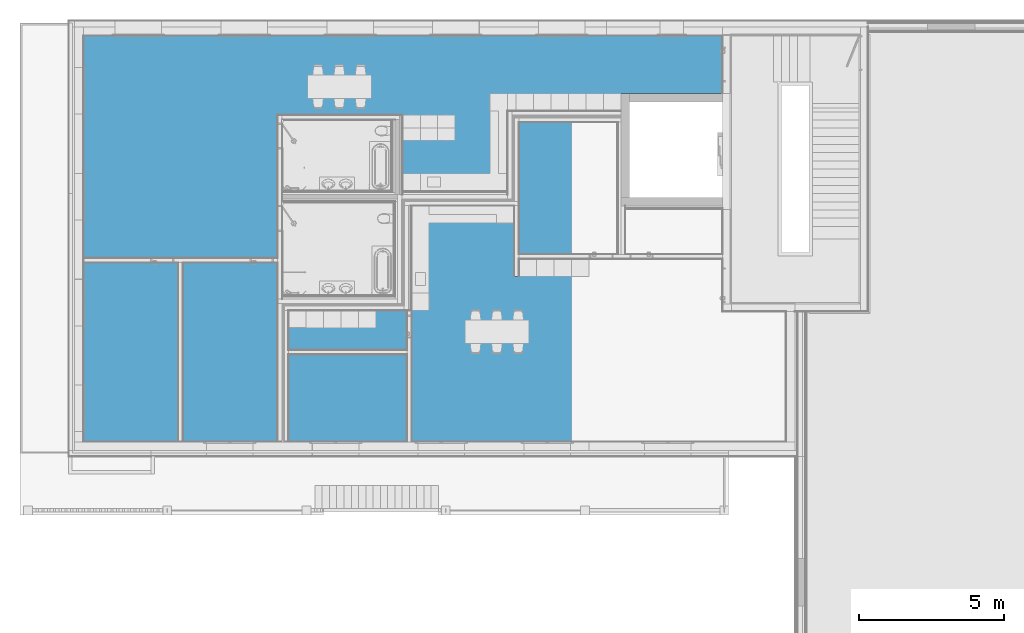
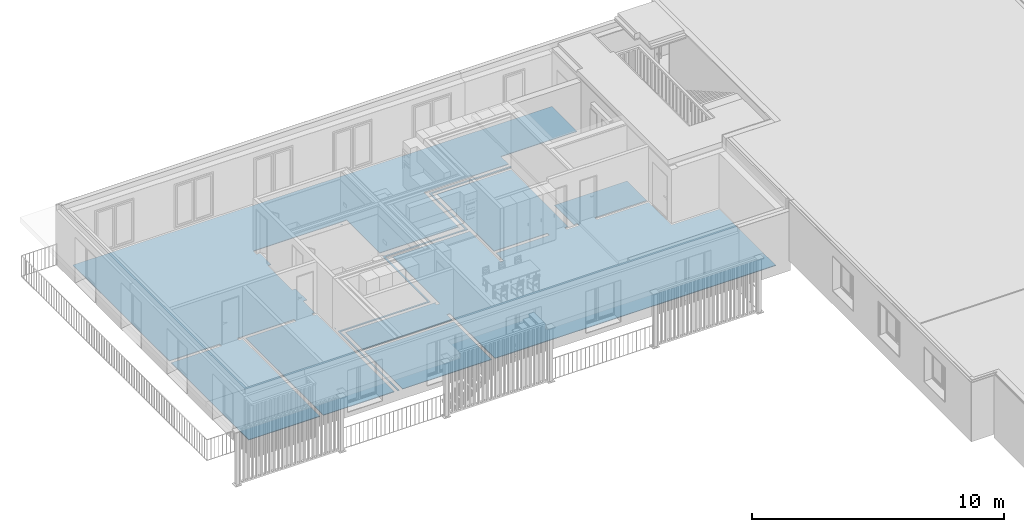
# One storey, part 11 of 34: 1 building element part, 1 element without a shape of its own.
"""IFC4 building model written with IfcOpenShell, lengths in millimetres."""

from ifc_helpers import new_model, entity, si_unit, converted_unit, derived_unit, direction, frame, origin_with_axes, place, context, subcontext, project, spatial, polygons, material, type_object, element, aggregate, save


model = new_model("IFC4")

# Units and contexts
model_context = context("Model", 3, precision=0.01, world=origin_with_axes(), true_north=direction((0.0, 1.0)))
body_context = subcontext(model_context, "Body", "Model", "MODEL_VIEW")
ifc_project = project(units=[si_unit("LENGTHUNIT", "METRE", prefix="MILLI"), si_unit("AREAUNIT", "SQUARE_METRE"), si_unit("VOLUMEUNIT", "CUBIC_METRE"), converted_unit("PLANEANGLEUNIT", "DEGREE", entity("IfcPlaneAngleMeasure", 0.0174532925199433), si_unit("PLANEANGLEUNIT", "RADIAN"), dimensions=[0, 0, 0, 0, 0, 0, 0]), converted_unit("TIMEUNIT", "Year", entity("IfcTimeMeasure", 31557600.0), si_unit("TIMEUNIT", "SECOND"), dimensions=[0, 0, 1, 0, 0, 0, 0]), si_unit("MASSUNIT", "GRAM", prefix="KILO"), si_unit("THERMODYNAMICTEMPERATUREUNIT", "DEGREE_CELSIUS"), si_unit("LUMINOUSINTENSITYUNIT", "LUMEN"), si_unit("ENERGYUNIT", "JOULE", prefix="MEGA"), derived_unit("THERMALCONDUCTANCEUNIT", [(si_unit("POWERUNIT", "WATT"), 1), (si_unit("LENGTHUNIT", "METRE"), -1), (si_unit("THERMODYNAMICTEMPERATUREUNIT", "KELVIN"), -1)]), derived_unit("SPECIFICHEATCAPACITYUNIT", [(si_unit("ENERGYUNIT", "JOULE"), 1), (si_unit("MASSUNIT", "GRAM", prefix="KILO"), -1), (si_unit("THERMODYNAMICTEMPERATUREUNIT", "KELVIN"), -1)]), derived_unit("MASSDENSITYUNIT", [(si_unit("MASSUNIT", "GRAM", prefix="KILO"), 1), (si_unit("VOLUMEUNIT", "CUBIC_METRE"), -1)])], contexts=[model_context])

# Site, building, storey
site_placement = place(None, origin_with_axes())
site = spatial("IfcSite", under=ifc_project, at=site_placement, Name="Gelände", CompositionType="ELEMENT")
building_placement = place(site_placement, origin_with_axes())
building = spatial("IfcBuilding", under=site, at=building_placement, Name="Gebäude", CompositionType="ELEMENT")
storey_placement = place(building_placement, frame((0.0, 0.0, 2900.0), z_axis=(0.0, 0.0, 1.0), x_axis=(1.0, 0.0, 0.0)))
storey = spatial("IfcBuildingStorey", under=building, at=storey_placement, Name="1.OG", CompositionType="ELEMENT", Elevation=2900.0)

# Covering, building element part
covering_type = type_object("IfcCoveringType", Name="Bodenaufbau Typ 01 150", PredefinedType="NOTDEFINED")
covering_placement = place(storey_placement, frame((-6561.004181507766, 37437.5972813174, 0.0), z_axis=(0.0, 0.0, 1.0), x_axis=(1.0, 0.0, 0.0)))
covering = element("IfcCovering", 1, at=covering_placement, inside=storey, type_object=covering_type, Name="Decke-007", PredefinedType="NOTDEFINED")
ifc_material = material(Name="Trittschalldämmung")
building_element_part_placement = place(covering_placement, origin_with_axes())
building_element_part = element("IfcBuildingElementPart", 2, at=building_element_part_placement, material=ifc_material, Name="Trittschalldämmung", PredefinedType="NOTDEFINED", context=body_context, shape_type="Tessellation", body=[
    polygons([(10621.77773059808, -5369.999999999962, 80.00000000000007), (10621.77773059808, -5359.999999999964, 80.00000000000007), (10611.77773059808, -5359.999999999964, 80.00000000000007), (10611.77773059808, -5369.999999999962, 80.00000000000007), (10621.77773059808, -5359.999999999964, 50.00000000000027), (10621.77773059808, -5369.999999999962, 50.00000000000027), (10611.77773059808, -5359.999999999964, 50.00000000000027), (10611.77773059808, -5369.999999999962, 50.00000000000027)], [[[1, 2, 3, 4]], [[5, 2, 1, 6]], [[2, 5, 7, 3]], [[3, 7, 8, 4]], [[6, 1, 4, 8]], [[5, 6, 8, 7]]], closed=True),
    polygons([(3419.999999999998, -7812.513021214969, 80.00000000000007), (3419.999999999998, -13980.00054054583, 80.00000000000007), (6683.999999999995, -13980.00054054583, 80.00000000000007), (6683.999999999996, -9223.223895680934, 80.00000000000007), (6683.999999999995, -9073.223895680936, 80.00000000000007), (6683.999999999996, -7812.513021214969, 80.00000000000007), (6533.999999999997, -7812.513021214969, 80.00000000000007), (6533.999999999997, -7662.513021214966, 80.00000000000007), (6683.999999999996, -7662.513021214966, 80.00000000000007), (6683.999999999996, -6734.99999999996, 80.00000000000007), (6843.999999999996, -6734.99999999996, 80.00000000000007), (6843.999999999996, -5844.99999999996, 80.00000000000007), (6683.999999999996, -5844.99999999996, 80.00000000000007), (6683.999999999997, -3898.533577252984, 80.00000000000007), (6843.999999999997, -3898.533577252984, 80.00000000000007), (6843.999999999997, -3008.533577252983, 80.00000000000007), (6683.999999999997, -3008.533577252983, 80.00000000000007), (6683.999999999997, -2743.533577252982, 80.00000000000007), (6833.999999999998, -2743.533577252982, 80.00000000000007), (10876.77773059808, -2743.533577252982, 80.00000000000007), (10876.77773059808, -2733.533577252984, 80.00000000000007), (10981.77773059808, -2733.533577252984, 80.00000000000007), (10981.77773059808, -5369.999999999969, 80.00000000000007), (14590.00162627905, -5369.999999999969, 80.00000000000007), (14590.00162627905, -5474.999999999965, 80.00000000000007), (14600.00162627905, -5474.999999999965, 80.00000000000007), (14600.00162627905, -2599.999999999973, 80.00000000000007), (14750.00162627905, -2599.999999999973, 80.00000000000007), (18490.00162627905, -2599.999999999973, 80.00000000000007), (18490.00162627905, -1989.999999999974, 80.00000000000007), (21980.00162627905, -1989.999999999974, 80.00000000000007), (21980.00162627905, 0.0, 80.00000000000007), (0.0, 0.0, 80.00000000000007), (0.0, -7662.51302121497, 80.00000000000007), (2309.999999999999, -7662.51302121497, 80.00000000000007), (2309.999999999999, -7812.513021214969, 80.00000000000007), (0.0, -7812.513021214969, 80.00000000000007), (0.0, -13980.00054054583, 80.00000000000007), (3269.999999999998, -13980.00054054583, 80.00000000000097), (3269.999999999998, -7812.513021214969, 80.00000000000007), (3110.0, -7812.513021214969, 80.00000000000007), (3110.0, -7662.51302121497, 80.00000000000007), (5733.999999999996, -7662.513021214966, 80.00000000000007), (5733.999999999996, -7812.513021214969, 80.00000000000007), (3419.999999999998, -7812.513021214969, 50.00000000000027), (3419.999999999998, -13980.00054054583, 50.00000000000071), (6683.999999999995, -13980.00054054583, 50.00000000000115), (6683.999999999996, -9223.223895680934, 50.00000000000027), (6683.999999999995, -9073.223895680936, 50.00000000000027), (6683.999999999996, -7812.513021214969, 50.00000000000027), (6533.999999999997, -7812.513021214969, 50.00000000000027), (6533.999999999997, -7662.513021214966, 50.00000000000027), (6683.999999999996, -7662.513021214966, 50.00000000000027), (6683.999999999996, -6734.99999999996, 50.00000000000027), (6843.999999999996, -6734.99999999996, 50.00000000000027), (6843.999999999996, -5844.99999999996, 50.00000000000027), (6683.999999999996, -5844.99999999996, 50.00000000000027), (6683.999999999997, -3898.533577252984, 50.00000000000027), (6843.999999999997, -3898.533577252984, 50.00000000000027), (6843.999999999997, -3008.533577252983, 50.00000000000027), (6683.999999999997, -3008.533577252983, 50.00000000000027), (6683.999999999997, -2743.533577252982, 50.00000000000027), (6833.999999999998, -2743.533577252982, 50.00000000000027), (10876.77773059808, -2743.533577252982, 50.00000000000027), (10876.77773059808, -2733.533577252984, 50.00000000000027), (10981.77773059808, -2733.533577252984, 50.00000000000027), (10981.77773059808, -5369.999999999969, 50.00000000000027), (14590.00162627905, -5369.999999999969, 50.00000000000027), (14590.00162627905, -5474.999999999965, 50.00000000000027), (14600.00162627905, -5474.999999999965, 50.00000000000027), (14600.00162627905, -2599.999999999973, 50.00000000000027), (14750.00162627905, -2599.999999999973, 50.00000000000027), (18490.00162627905, -2599.999999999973, 50.00000000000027), (18490.00162627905, -1989.999999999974, 50.00000000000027), (21980.00162627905, -1989.999999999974, 50.00000000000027), (21980.00162627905, 0.0, 50.00000000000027), (0.0, 0.0, 50.00000000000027), (0.0, -7662.51302121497, 50.00000000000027), (2309.999999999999, -7662.51302121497, 50.00000000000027), (2309.999999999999, -7812.513021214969, 50.00000000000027), (0.0, -7812.513021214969, 50.00000000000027), (0.0, -13980.00054054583, 50.00000000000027), (3269.999999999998, -13980.00054054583, 50.00000000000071), (3269.999999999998, -7812.513021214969, 50.00000000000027), (3110.0, -7812.513021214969, 50.00000000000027), (3110.0, -7662.51302121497, 50.00000000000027), (5733.999999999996, -7662.513021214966, 50.00000000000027), (5733.999999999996, -7812.513021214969, 50.00000000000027)], [[[1, 2, 3, 4, 5, 6, 7, 8, 9, 10, 11, 12, 13, 14, 15, 16, 17, 18, 19, 20, 21, 22, 23, 24, 25, 26, 27, 28, 29, 30, 31, 32, 33, 34, 35, 36, 37, 38, 39, 40, 41, 42, 43, 44]], [[2, 1, 45, 46]], [[2, 46, 47, 3]], [[48, 4, 3, 47]], [[4, 48, 49, 5]], [[5, 49, 50, 6]], [[6, 50, 51, 7]], [[8, 7, 51, 52]], [[53, 9, 8, 52]], [[10, 9, 53, 54]], [[11, 10, 54, 55]], [[11, 55, 56, 12]], [[57, 13, 12, 56]], [[14, 13, 57, 58]], [[15, 14, 58, 59]], [[15, 59, 60, 16]], [[61, 17, 16, 60]], [[18, 17, 61, 62]], [[63, 19, 18, 62]], [[64, 20, 19, 63]], [[21, 20, 64, 65]], [[66, 22, 21, 65]], [[23, 22, 66, 67]], [[23, 67, 68, 24]], [[24, 68, 69, 25]], [[25, 69, 70, 26]], [[26, 70, 71, 27]], [[72, 28, 27, 71]], [[28, 72, 73, 29]], [[29, 73, 74, 30]], [[74, 75, 31, 30]], [[75, 76, 32, 31]], [[76, 77, 33, 32]], [[78, 34, 33, 77]], [[35, 34, 78, 79]], [[36, 35, 79, 80]], [[37, 36, 80, 81]], [[37, 81, 82, 38]], [[83, 39, 38, 82]], [[84, 40, 39, 83]], [[40, 84, 85, 41]], [[42, 41, 85, 86]], [[43, 42, 86, 87]], [[44, 43, 87, 88]], [[45, 1, 44, 88]], [[46, 45, 88, 87, 86, 85, 84, 83, 82, 81, 80, 79, 78, 77, 76, 75, 74, 73, 72, 71, 70, 69, 68, 67, 66, 65, 64, 63, 62, 61, 60, 59, 58, 57, 56, 55, 54, 53, 52, 51, 50, 49, 48, 47]]], closed=True),
    polygons([(10726.77773059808, -2903.533577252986, 80.00000000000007), (10726.77773059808, -2893.533577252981, 80.00000000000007), (10611.77773059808, -2893.533577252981, 80.00000000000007), (10611.77773059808, -2903.533577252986, 80.00000000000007), (10726.77773059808, -2903.533577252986, 50.00000000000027), (10726.77773059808, -2893.533577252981, 50.00000000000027), (10611.77773059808, -2893.533577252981, 50.00000000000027), (10611.77773059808, -2903.533577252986, 50.00000000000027)], [[[1, 2, 3, 4]], [[1, 5, 6, 2]], [[2, 6, 7, 3]], [[8, 4, 3, 7]], [[5, 1, 4, 8]], [[5, 8, 7, 6]]], closed=True),
    polygons([(6843.999999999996, -9073.223895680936, 80.00000000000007), (6843.999999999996, -8958.223895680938, 80.00000000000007), (6833.999999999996, -8958.223895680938, 80.00000000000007), (6833.999999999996, -9073.223895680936, 80.00000000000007), (6843.999999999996, -9073.223895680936, 50.00000000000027), (6843.999999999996, -8958.223895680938, 50.00000000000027), (6833.999999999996, -8958.223895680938, 50.00000000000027), (6833.999999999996, -9073.223895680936, 50.00000000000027)], [[[1, 2, 3, 4]], [[2, 1, 5, 6]], [[2, 6, 7, 3]], [[8, 4, 3, 7]], [[5, 1, 4, 8]], [[5, 8, 7, 6]]], closed=True),
    polygons([(6903.999981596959, -13980.00054054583, 80.00000000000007), (6903.999981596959, -9453.223895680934, 80.00000000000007), (6903.999981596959, -9303.223895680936, 80.00000000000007), (11037.0, -9303.223895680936, 80.00000000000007), (11037.0, -5854.999999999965, 80.00000000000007), (11037.0, -5704.999999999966, 80.00000000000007), (14830.00162627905, -5704.999999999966, 80.00000000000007), (14830.00162627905, -2829.999999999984, 80.00000000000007), (14980.00162627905, -2829.999999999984, 80.00000000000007), (18490.00162627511, -2829.999999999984, 80.00000000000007), (18490.00162627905, -2749.999999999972, 80.00000000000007), (14750.00162627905, -2749.999999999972, 80.00000000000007), (14750.00162627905, -5624.999999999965, 80.00000000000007), (14600.00162627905, -5624.999999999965, 80.00000000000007), (10957.0, -5624.999999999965, 80.00000000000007), (10957.0, -9223.223895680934, 80.00000000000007), (10807.0, -9223.223895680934, 80.00000000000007), (6833.999999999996, -9223.223895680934, 80.00000000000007), (6833.999999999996, -13980.00054054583, 80.00000000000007), (6903.999981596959, -9453.223895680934, 50.00000000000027), (6903.999981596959, -13980.00054054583, 50.00000000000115), (6903.999981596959, -9303.223895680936, 50.00000000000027), (11037.0, -9303.223895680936, 50.00000000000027), (11037.0, -5854.999999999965, 50.00000000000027), (11037.0, -5704.999999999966, 50.00000000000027), (14830.00162627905, -5704.999999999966, 50.00000000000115), (14830.00162627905, -2829.999999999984, 50.00000000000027), (14980.00162627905, -2829.999999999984, 50.00000000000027), (18490.00162627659, -2829.999999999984, 50.00000000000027), (18490.00162627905, -2749.999999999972, 50.00000000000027), (14750.00162627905, -2749.999999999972, 50.00000000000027), (14750.00162627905, -5624.999999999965, 50.00000000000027), (14600.00162627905, -5624.999999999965, 50.00000000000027), (10957.0, -5624.999999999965, 50.00000000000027), (10957.0, -9223.223895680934, 50.00000000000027), (10807.0, -9223.223895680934, 50.00000000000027), (6833.999999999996, -9223.223895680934, 50.00000000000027), (6833.999999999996, -13980.00054054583, 50.00000000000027)], [[[1, 2, 3, 4, 5, 6, 7, 8, 9, 10, 11, 12, 13, 14, 15, 16, 17, 18, 19]], [[20, 2, 1, 21]], [[2, 20, 22, 3]], [[23, 4, 3, 22]], [[4, 23, 24, 5]], [[5, 24, 25, 6]], [[26, 7, 6, 25]], [[8, 7, 26, 27]], [[28, 9, 8, 27]], [[29, 10, 9, 28]], [[10, 29, 30, 11]], [[31, 12, 11, 30]], [[13, 12, 31, 32]], [[33, 14, 13, 32]], [[15, 14, 33, 34]], [[15, 34, 35, 16]], [[36, 17, 16, 35]], [[37, 18, 17, 36]], [[19, 18, 37, 38]], [[21, 1, 19, 38]], [[20, 21, 38, 37, 36, 35, 34, 33, 32, 31, 30, 29, 28, 27, 26, 25, 24, 23, 22]]], closed=True),
    polygons([(11142.0, -10970.00054054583, 50.00000000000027), (11142.0, -10970.00054054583, 80.00000000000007), (11142.0, -13980.00054054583, 80.00000000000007), (11142.0, -13980.00054054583, 50.00000000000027), (7053.999981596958, -10970.00054054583, 80.00000000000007), (7053.999981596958, -10970.00054054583, 50.00000000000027), (7053.999981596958, -13980.00054054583, 80.00000000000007), (7053.999981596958, -13980.00054054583, 50.00000000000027)], [[[1, 2, 3, 4]], [[5, 2, 1, 6]], [[2, 5, 7, 3]], [[4, 3, 7, 8]], [[6, 1, 4, 8]], [[5, 6, 8, 7]]], closed=True),
    polygons([(7053.999981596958, -10820.00054054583, 80.00000000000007), (11142.0, -10820.00054054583, 80.00000000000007), (11142.0, -10413.22389568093, 80.00000000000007), (11292.0, -10413.22389568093, 80.00000000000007), (11292.0, -13980.00054054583, 80.00000000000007), (24181.00162627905, -13980.00054054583, 80.00000000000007), (24181.00162627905, -9489.999999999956, 80.00000000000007), (21990.00162627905, -9489.999999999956, 80.00000000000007), (21990.00162627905, -7680.00000076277, 80.00000000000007), (19600.00162627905, -7680.000000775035, 80.00000000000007), (19600.00162627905, -7529.99999922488, 80.00000000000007), (21990.00162627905, -7529.999998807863, 80.00000000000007), (21990.00162627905, -5969.99999999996, 80.00000000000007), (18640.00162627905, -5969.99999999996, 80.00000000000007), (18640.00162627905, -7529.999999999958, 80.00000000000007), (18800.00162627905, -7529.999999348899, 80.00000000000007), (18800.00162627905, -7680.000000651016, 80.00000000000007), (18225.00162627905, -7680.000000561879, 80.00000000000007), (18225.00162627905, -7529.999999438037, 80.00000000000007), (18385.0016262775, -7529.999999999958, 80.00000000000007), (18385.00162625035, -2979.999999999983, 80.00000000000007), (14980.00162627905, -2979.999999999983, 80.00000000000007), (14980.00162627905, -5704.999999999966, 80.00000000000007), (14980.00162627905, -5854.999999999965, 80.00000000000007), (14980.00162627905, -7529.99999994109, 80.00000000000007), (17425.00162627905, -7529.999999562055, 80.00000000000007), (17425.00162627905, -7680.000000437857, 80.00000000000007), (14980.00162627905, -7680.000000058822, 80.00000000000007), (14980.00162627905, -8287.999999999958, 80.00000000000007), (14830.00162627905, -8287.999999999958, 80.00000000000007), (14830.00162627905, -5854.999999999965, 80.00000000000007), (11292.0, -5854.999999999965, 80.00000000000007), (11292.0, -9613.223895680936, 80.00000000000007), (11142.0, -9613.223895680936, 80.00000000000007), (11142.0, -9463.223895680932, 80.00000000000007), (11187.0, -9463.223895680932, 80.00000000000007), (11187.0, -9453.223895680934, 80.00000000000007), (11037.0, -9453.223895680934, 80.00000000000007), (7053.999981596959, -9453.223895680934, 80.00000000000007), (11142.0, -10820.00054054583, 50.00000000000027), (7053.999981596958, -10820.00054054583, 50.00000000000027), (11142.0, -10413.22389568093, 50.00000000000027), (11292.0, -10413.22389568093, 50.00000000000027), (11292.0, -13980.00054054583, 50.00000000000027), (24181.00162627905, -13980.00054054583, 50.00000000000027), (24181.00162627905, -9489.999999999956, 50.00000000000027), (21990.00162627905, -9489.999999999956, 50.00000000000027), (21990.00162627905, -7680.00000076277, 50.00000000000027), (19600.00162627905, -7680.000000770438, 50.00000000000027), (19600.00162627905, -7529.999999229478, 50.00000000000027), (21990.00162627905, -7529.999998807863, 50.00000000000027), (21990.00162627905, -5969.99999999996, 50.00000000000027), (18640.00162627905, -5969.99999999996, 50.00000000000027), (18640.00162627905, -7529.999999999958, 50.00000000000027), (18800.00162627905, -7529.999999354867, 50.00000000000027), (18800.00162627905, -7680.000000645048, 50.00000000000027), (18225.00162627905, -7680.00000055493, 50.00000000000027), (18225.00162627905, -7529.999999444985, 50.00000000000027), (18385.00162627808, -7529.999999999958, 50.00000000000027), (18385.00162626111, -2979.999999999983, 50.00000000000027), (14980.00162627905, -2979.999999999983, 50.00000000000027), (14980.00162627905, -5704.999999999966, 50.00000000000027), (14980.00162627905, -5854.999999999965, 50.00000000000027), (14980.00162627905, -7529.999999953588, 50.00000000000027), (17425.00162627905, -7529.999999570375, 50.00000000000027), (17425.00162627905, -7680.000000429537, 50.00000000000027), (14980.00162627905, -7680.000000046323, 50.00000000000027), (14980.00162627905, -8287.999999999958, 50.00000000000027), (14830.00162627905, -8287.999999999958, 50.00000000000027), (14830.00162627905, -5854.999999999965, 50.00000000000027), (11292.0, -5854.999999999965, 50.00000000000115), (11292.0, -9613.223895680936, 50.00000000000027), (11142.0, -9613.223895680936, 50.00000000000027), (11142.0, -9463.223895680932, 50.00000000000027), (11187.0, -9463.223895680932, 50.00000000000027), (11187.0, -9453.223895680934, 50.00000000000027), (11037.0, -9453.223895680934, 50.00000000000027), (7053.999981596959, -9453.223895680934, 50.00000000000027)], [[[1, 2, 3, 4, 5, 6, 7, 8, 9, 10, 11, 12, 13, 14, 15, 16, 17, 18, 19, 20, 21, 22, 23, 24, 25, 26, 27, 28, 29, 30, 31, 32, 33, 34, 35, 36, 37, 38, 39]], [[40, 2, 1, 41]], [[2, 40, 42, 3]], [[4, 3, 42, 43]], [[5, 4, 43, 44]], [[5, 44, 45, 6]], [[45, 46, 7, 6]], [[46, 47, 8, 7]], [[48, 9, 8, 47]], [[10, 9, 48, 49]], [[11, 10, 49, 50]], [[51, 12, 11, 50]], [[52, 13, 12, 51]], [[14, 13, 52, 53]], [[14, 53, 54, 15]], [[15, 54, 55, 16]], [[17, 16, 55, 56]], [[18, 17, 56, 57]], [[19, 18, 57, 58]], [[59, 20, 19, 58]], [[60, 21, 20, 59]], [[22, 21, 60, 61]], [[22, 61, 62, 23]], [[23, 62, 63, 24]], [[24, 63, 64, 25]], [[25, 64, 65, 26]], [[27, 26, 65, 66]], [[67, 28, 27, 66]], [[29, 28, 67, 68]], [[30, 29, 68, 69]], [[70, 31, 30, 69]], [[71, 32, 31, 70]], [[71, 72, 33, 32]], [[34, 33, 72, 73]], [[35, 34, 73, 74]], [[75, 36, 35, 74]], [[36, 75, 76, 37]], [[77, 38, 37, 76]], [[78, 39, 38, 77]], [[41, 1, 39, 78]], [[40, 41, 78, 77, 76, 75, 74, 73, 72, 71, 70, 69, 68, 67, 66, 65, 64, 63, 62, 61, 60, 59, 58, 57, 56, 55, 54, 53, 52, 51, 50, 49, 48, 47, 46, 45, 44, 43, 42]]], closed=True),
])
aggregate(covering, [building_element_part])

save(model, "model.ifc")
